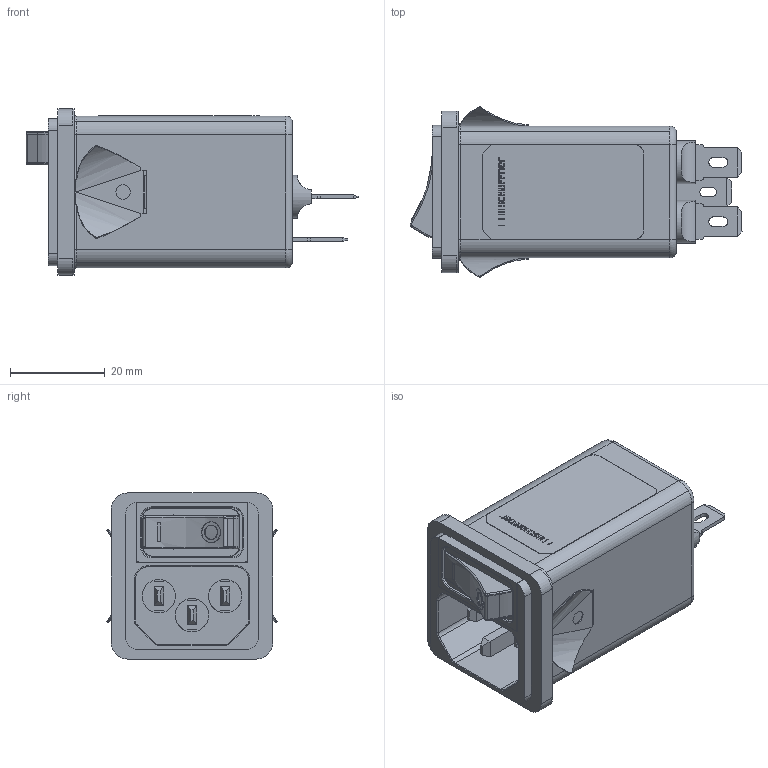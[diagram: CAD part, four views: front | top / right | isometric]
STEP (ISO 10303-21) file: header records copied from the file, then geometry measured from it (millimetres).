
FILE_DESCRIPTION((''),'2;1');
FILE_NAME('D:\_ PRODUCT\New project\3D request\FN9264\FN9264_S_no logo.stp','2013-05-08T09:09:40',('sayan.penton'),(''),'Autodesk Inventor 2010','Autodesk Inventor 2010','');
FILE_SCHEMA(('AUTOMOTIVE_DESIGN { 1 0 10303 214 1 1 1 1 }'));
Length unit declared in the file: millimetre
Products named in the file (1): Part3
Bounding box: 69.94 x 35.81 x 35 mm (x, y, z)
Volume: 20249.4 mm3; surface area: 32561.6 mm2
Topology: 12 solids, 12 shells, 1571 faces, 4235 edges, 2740 vertices
Faces by surface type: plane 977, bspline 349, cylinder 205, torus 40
Full cylindrical faces by diameter (mm): 1.5 x4, 2.65 x2, 3 x2, 4.4 x1, 7 x3, 9 x2, 9.5 x2
Entity records: 59625 total; most frequent: CARTESIAN_POINT 20047, ORIENTED_EDGE 8436, DIRECTION 6671, EDGE_CURVE 4218, VECTOR 3227, LINE 3227, VERTEX_POINT 2740, EDGE_LOOP 1730
